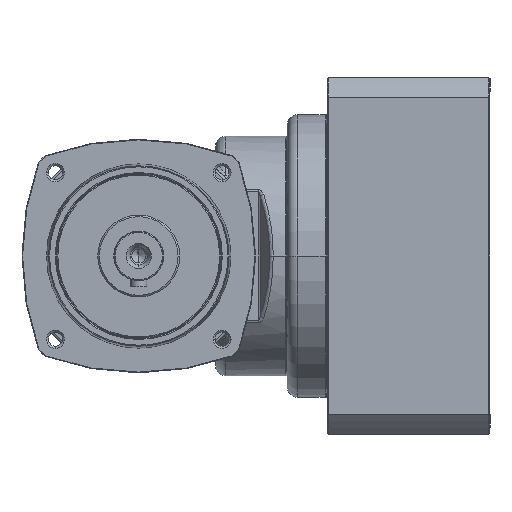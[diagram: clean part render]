
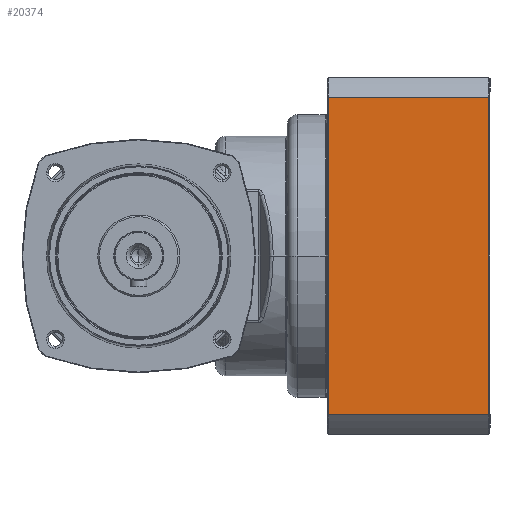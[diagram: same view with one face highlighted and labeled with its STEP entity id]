
A CAD part, left-side view. The second image highlights one B-rep face of the part: STEP entity #20374.
In plain terms, the highlighted planar face has unit normal (-1, 0, 0) as drawn and (0, -1, 0) by its records, which use the part's own axes.
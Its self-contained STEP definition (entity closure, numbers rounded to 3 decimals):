
#19230=DIRECTION('',(1.,0.,0.));
#19231=VECTOR('',#19230,154.961);
#19232=CARTESIAN_POINT('',(-77.481,-87.,
3.));
#19233=LINE('',#19232,#19231);
#19234=DIRECTION('',(0.,0.,1.));
#19235=VECTOR('',#19234,78.5);
#19236=CARTESIAN_POINT('',(-77.481,-87.,
3.));
#19237=LINE('',#19236,#19235);
#19238=DIRECTION('',(1.,0.,0.));
#19239=VECTOR('',#19238,154.961);
#19240=CARTESIAN_POINT('',(-77.481,-87.,
81.5));
#19241=LINE('',#19240,#19239);
#19242=DIRECTION('',(0.,0.,1.));
#19243=VECTOR('',#19242,78.5);
#19244=CARTESIAN_POINT('',(77.481,-87.,
3.));
#19245=LINE('',#19244,#19243);
#19939=CARTESIAN_POINT('',(-77.481,-87.,
81.5));
#19940=CARTESIAN_POINT('',(77.481,-87.,
81.5));
#19941=VERTEX_POINT('',#19939);
#19942=VERTEX_POINT('',#19940);
#19976=CARTESIAN_POINT('',(-77.481,-87.,3.));
#19978=VERTEX_POINT('',#19976);
#19981=CARTESIAN_POINT('',(77.481,-87.,
3.));
#19982=VERTEX_POINT('',#19981);
#20360=CARTESIAN_POINT('',(-87.,-87.,0.));
#20361=DIRECTION('',(0.,-1.,0.));
#20362=DIRECTION('',(1.,0.,0.));
#20363=AXIS2_PLACEMENT_3D('',#20360,#20361,#20362);
#20364=PLANE('',#20363);
#20365=ORIENTED_EDGE('',*,*,#20354,.F.);
#20367=ORIENTED_EDGE('',*,*,#20366,.T.);
#20369=ORIENTED_EDGE('',*,*,#20368,.T.);
#20371=ORIENTED_EDGE('',*,*,#20370,.F.);
#20372=EDGE_LOOP('',(#20365,#20367,#20369,#20371));
#20373=FACE_OUTER_BOUND('',#20372,.F.);
#20374=ADVANCED_FACE('',(#20373),#20364,.T.);
#20354=EDGE_CURVE('',#19978,#19982,#19233,.T.);
#20366=EDGE_CURVE('',#19978,#19941,#19237,.T.);
#20368=EDGE_CURVE('',#19941,#19942,#19241,.T.);
#20370=EDGE_CURVE('',#19982,#19942,#19245,.T.);
